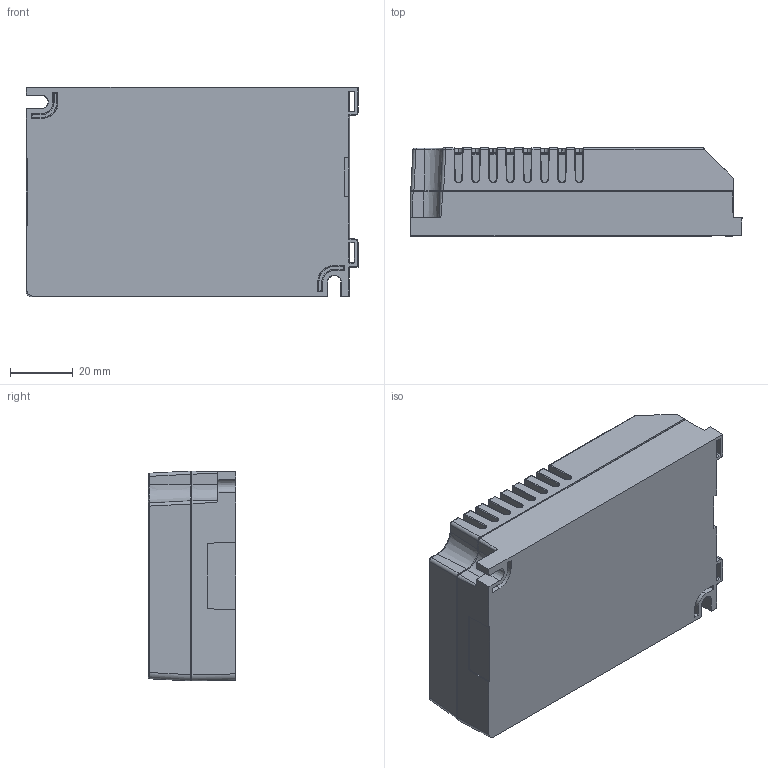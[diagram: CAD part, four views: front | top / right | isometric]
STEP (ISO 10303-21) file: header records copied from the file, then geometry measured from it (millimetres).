
FILE_DESCRIPTION (( 'STEP AP203' ), '1' );
FILE_NAME ('LC1x25_35_FD.STEP', '2020-03-12T10:17:38', ( '' ), ( '' ), 'SwSTEP 2.0', 'SolidWorks 2014', '' );
FILE_SCHEMA (( 'CONFIG_CONTROL_DESIGN' ));
Length unit declared in the file: millimetre
Products named in the file (1): LC1x25_35_FD
Bounding box: 106 x 28 x 67 mm (x, y, z)
Surface area: 41294.8 mm2 (no closed solid volume)
Topology: 0 solids, 10 shells, 645 faces, 2071 edges, 1390 vertices
Faces by surface type: plane 282, cylinder 238, bspline 91, cone 28, torus 6
Entity records: 25548 total; most frequent: CARTESIAN_POINT 9017, ORIENTED_EDGE 3650, DIRECTION 2916, EDGE_CURVE 2070, VERTEX_POINT 1390, LINE 1256, VECTOR 1256, AXIS2_PLACEMENT_3D 830
